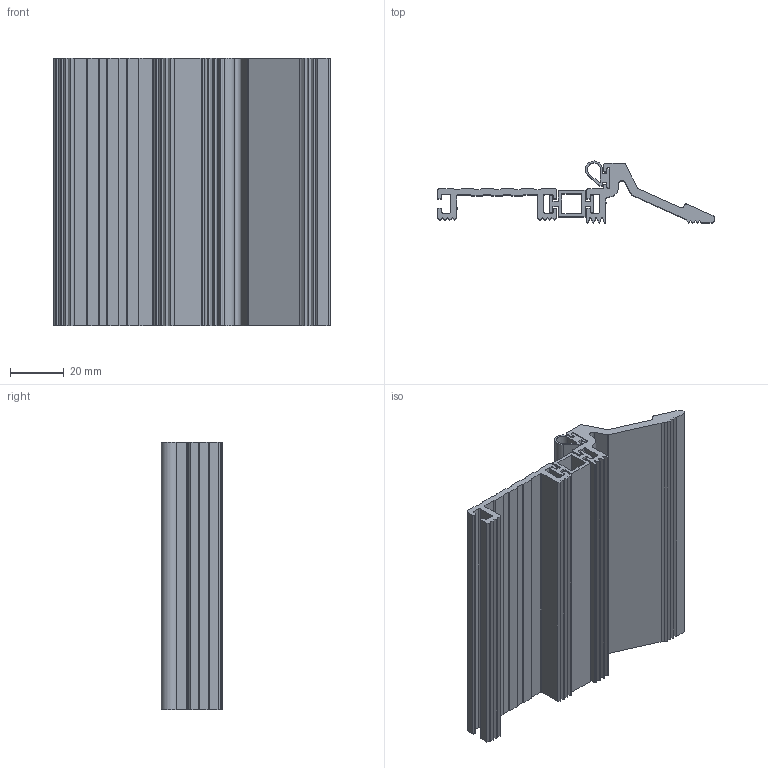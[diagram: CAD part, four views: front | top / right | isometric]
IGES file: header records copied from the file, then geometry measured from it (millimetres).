
Global section: file name: No Iges File Name specified; native system: Autodesk Inventor 2012; preprocessor: AutoDesk Inventor Iges Exporter R2012; author: anna.b; date: 20130718.145410; units: millimetre
Bounding box: 103.25 x 23.02 x 100 mm (x, y, z)
Volume: 53311.1 mm3; surface area: 51398.4 mm2
Topology: 4 solids, 4 shells, 225 faces, 651 edges, 434 vertices
Faces by surface type: plane 167, cylinder 31, revolution 27
